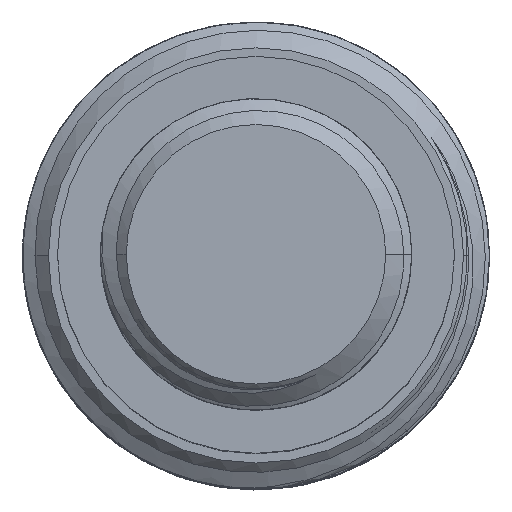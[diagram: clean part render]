
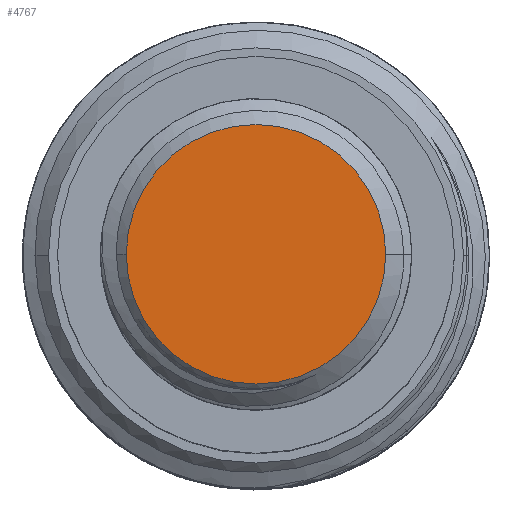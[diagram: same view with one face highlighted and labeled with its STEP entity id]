
A CAD part, top view. The second image highlights one B-rep face of the part: STEP entity #4767.
In plain terms, the highlighted planar face has unit normal (0, 0, 1).
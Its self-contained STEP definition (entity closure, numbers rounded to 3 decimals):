
#14=CARTESIAN_POINT('',(0.,0.,0.));
#15=DIRECTION('',(0.,0.,-1.));
#16=DIRECTION('',(1.,0.,0.));
#17=AXIS2_PLACEMENT_3D('',#14,#15,#16);
#19=CARTESIAN_POINT('',(0.,0.,0.));
#20=DIRECTION('',(0.,0.,-1.));
#21=DIRECTION('',(-1.,0.,0.));
#22=AXIS2_PLACEMENT_3D('',#19,#20,#21);
#4551=CARTESIAN_POINT('',(5.,0.,0.));
#4552=CARTESIAN_POINT('',(-5.,0.,0.));
#4553=VERTEX_POINT('',#4551);
#4554=VERTEX_POINT('',#4552);
#4756=CARTESIAN_POINT('',(0.,0.,0.));
#4757=DIRECTION('',(0.,0.,1.));
#4758=DIRECTION('',(-1.,0.,0.));
#4759=AXIS2_PLACEMENT_3D('',#4756,#4757,#4758);
#4760=PLANE('',#4759);
#4762=ORIENTED_EDGE('',*,*,#4761,.T.);
#4764=ORIENTED_EDGE('',*,*,#4763,.T.);
#4765=EDGE_LOOP('',(#4762,#4764));
#4766=FACE_OUTER_BOUND('',#4765,.F.);
#4767=ADVANCED_FACE('',(#4766),#4760,.T.);
#18=CIRCLE('',#17,5.);
#23=CIRCLE('',#22,5.);
#4761=EDGE_CURVE('',#4553,#4554,#18,.T.);
#4763=EDGE_CURVE('',#4554,#4553,#23,.T.);
